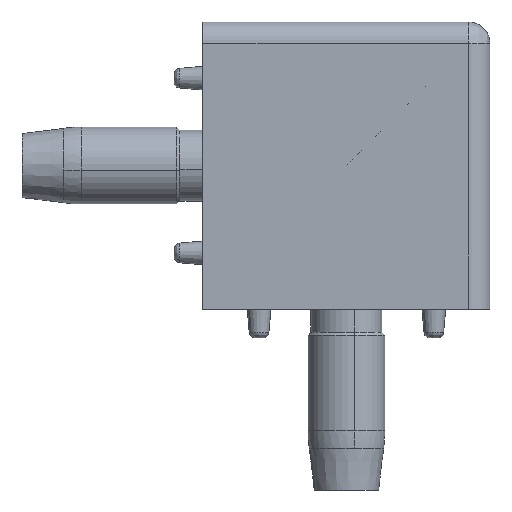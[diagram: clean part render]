
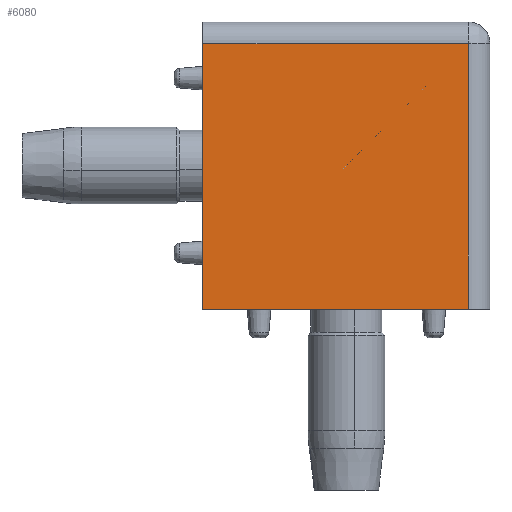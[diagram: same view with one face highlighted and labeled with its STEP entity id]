
A CAD part, front view. The second image highlights one B-rep face of the part: STEP entity #6080.
In plain terms, the highlighted planar face has unit normal (0, -1, 0).
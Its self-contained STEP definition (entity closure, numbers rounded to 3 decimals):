
#82 = VERTEX_POINT ( 'NONE', #2147 ) ;
#252 = CARTESIAN_POINT ( 'NONE',  ( -20., -20., 20. ) ) ;
#418 = CARTESIAN_POINT ( 'NONE',  ( -20., -20., -20. ) ) ;
#754 = FACE_OUTER_BOUND ( 'NONE', #6066, .T. ) ;
#975 = DIRECTION ( 'NONE',  ( 1., 0., 0. ) ) ;
#1410 = DIRECTION ( 'NONE',  ( 1., 0., 0. ) ) ;
#1422 = EDGE_CURVE ( 'NONE', #1616, #6432, #3774, .T. ) ;
#1616 = VERTEX_POINT ( 'NONE', #2776 ) ;
#1763 = CARTESIAN_POINT ( 'NONE',  ( 17., -20., 20. ) ) ;
#2134 = VERTEX_POINT ( 'NONE', #3250 ) ;
#2147 = CARTESIAN_POINT ( 'NONE',  ( 17., -20., 17. ) ) ;
#2534 = VECTOR ( 'NONE', #975, 1000. ) ;
#2583 = VECTOR ( 'NONE', #5613, 1000. ) ;
#2776 = CARTESIAN_POINT ( 'NONE',  ( -20., -20., -20. ) ) ;
#2907 = DIRECTION ( 'NONE',  ( 0., 0., -1. ) ) ;
#3195 = CARTESIAN_POINT ( 'NONE',  ( -20., -20., 20. ) ) ;
#3243 = LINE ( 'NONE', #1763, #2583 ) ;
#3250 = CARTESIAN_POINT ( 'NONE',  ( -20., -20., 17. ) ) ;
#3323 = VECTOR ( 'NONE', #1410, 1000. ) ;
#3774 = LINE ( 'NONE', #418, #2534 ) ;
#3829 = ORIENTED_EDGE ( 'NONE', *, *, #5248, .T. ) ;
#3931 = LINE ( 'NONE', #252, #4129 ) ;
#4129 = VECTOR ( 'NONE', #2907, 1000. ) ;
#4226 = ORIENTED_EDGE ( 'NONE', *, *, #4885, .F. ) ;
#4530 = AXIS2_PLACEMENT_3D ( 'NONE', #3195, #6609, #5549 ) ;
#4810 = PLANE ( 'NONE',  #4530 ) ;
#4885 = EDGE_CURVE ( 'NONE', #2134, #82, #4933, .T. ) ;
#4933 = LINE ( 'NONE', #6207, #3323 ) ;
#5057 = ORIENTED_EDGE ( 'NONE', *, *, #5289, .F. ) ;
#5248 = EDGE_CURVE ( 'NONE', #2134, #1616, #3931, .T. ) ;
#5289 = EDGE_CURVE ( 'NONE', #82, #6432, #3243, .T. ) ;
#5549 = DIRECTION ( 'NONE',  ( 0., 0., 1. ) ) ;
#5587 = ORIENTED_EDGE ( 'NONE', *, *, #1422, .T. ) ;
#5613 = DIRECTION ( 'NONE',  ( 0., 0., -1. ) ) ;
#5807 = CARTESIAN_POINT ( 'NONE',  ( 17., -20., -20. ) ) ;
#6066 = EDGE_LOOP ( 'NONE', ( #5057, #4226, #3829, #5587 ) ) ;
#6080 = ADVANCED_FACE ( 'NONE', ( #754 ), #4810, .F. ) ;
#6207 = CARTESIAN_POINT ( 'NONE',  ( -20., -20., 17. ) ) ;
#6432 = VERTEX_POINT ( 'NONE', #5807 ) ;
#6609 = DIRECTION ( 'NONE',  ( 0., 1., 0. ) ) ;
